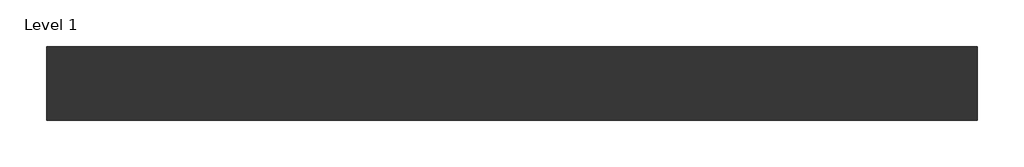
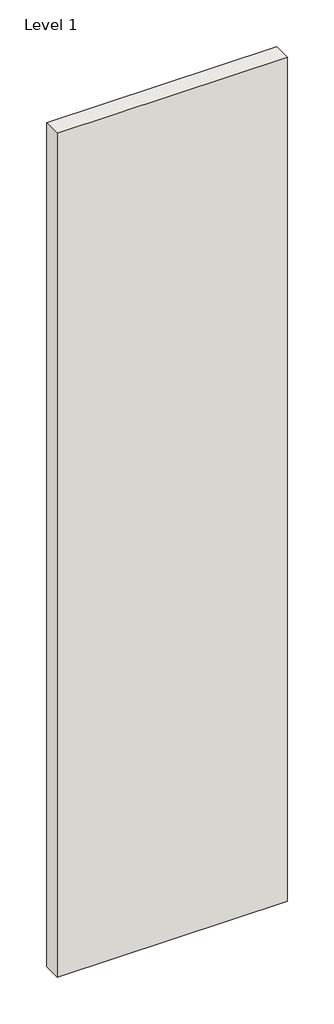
# One storey: 1 wall.
"""IFC4 building model written with IfcOpenShell, lengths in millimetres."""

from ifc_helpers import new_model, si_unit, origin, origin_with_axes, place, context, project, spatial, polyline, outline, extrude, element, save

model = new_model("IFC4")

# Units and contexts
model_context = context("Model", 3, world=origin())
ifc_project = project(units=[si_unit("LENGTHUNIT", "METRE", prefix="MILLI")], contexts=[model_context])

# Site, building, storey
site = spatial("IfcSite", under=ifc_project)
building = spatial("IfcBuilding", under=site)
storey = spatial("IfcBuildingStorey", under=building, Name="Level 1", Elevation=0.0)

# Wall
placement = place(None, origin())
element("IfcWall", 1, ObjectType="Trasdosado Placo® 115(90) 2xBA13 + 90LM c/400", at=placement, inside=storey, context=model_context, shape_type="SweptSolid", body=[
    extrude(outline(polyline([(-27296.4711674, -83494.3502842), (-28496.4711674, -83494.3502842), (-28496.4711674, -83399.3502842), (-27296.4711674, -83399.3502842), (-27296.4711674, -83494.3502842)])), origin_with_axes(), (0.0, 0.0, 1.0), 4650.0),
])

save(model, "model.ifc")
